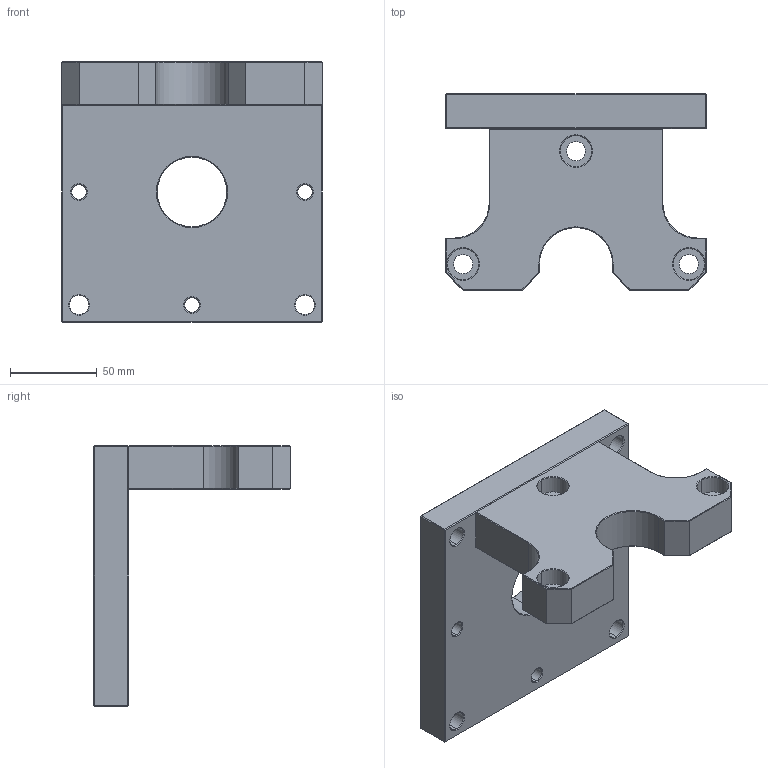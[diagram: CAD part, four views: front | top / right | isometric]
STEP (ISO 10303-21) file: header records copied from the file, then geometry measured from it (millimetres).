
FILE_DESCRIPTION (( 'STEP AP203' ), '1' );
FILE_NAME ('SW25-Schwenkwinkel.STEP', '2013-08-19T13:04:22', ( 'MM01' ), ( '' ), 'SwSTEP 2.0', 'SolidWorks 2012', '' );
FILE_SCHEMA (( 'CONFIG_CONTROL_DESIGN' ));
Length unit declared in the file: millimetre
Products named in the file (1): SW25-Schwenkwinkel
Bounding box: 150 x 113 x 150 mm (x, y, z)
Volume: 634522 mm3; surface area: 92804 mm2
Topology: 1 solids, 7 shells, 271 faces, 599 edges, 346 vertices
Faces by surface type: plane 103, cone 91, cylinder 65, torus 8, sphere 4
Entity records: 7420 total; most frequent: DIRECTION 1377, CARTESIAN_POINT 1209, ORIENTED_EDGE 1182, EDGE_CURVE 591, AXIS2_PLACEMENT_3D 514, VECTOR 349, LINE 349, VERTEX_POINT 346
